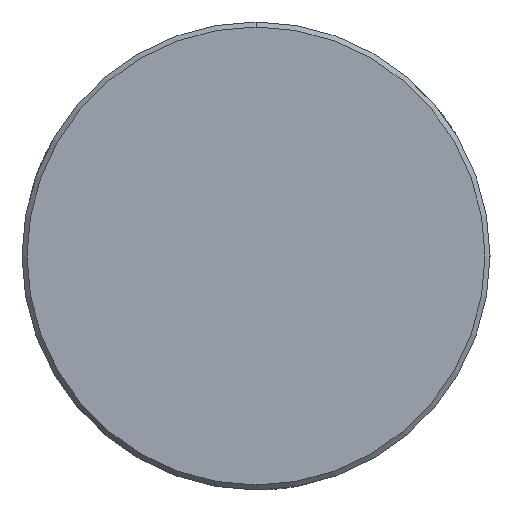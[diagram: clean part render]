
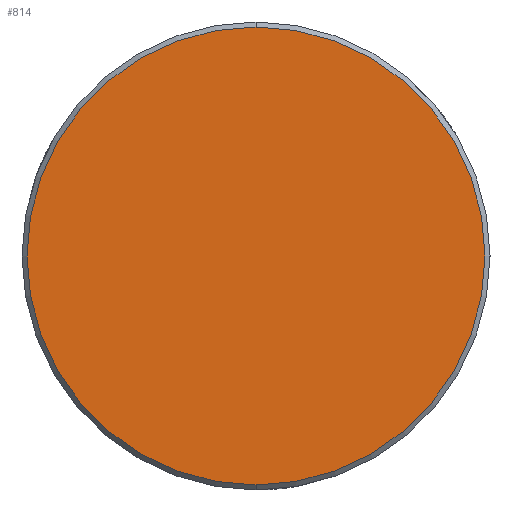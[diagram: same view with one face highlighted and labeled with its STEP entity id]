
A CAD part, left-side view. The second image highlights one B-rep face of the part: STEP entity #814.
In plain terms, the highlighted planar face has unit normal (-1, 0, 0).
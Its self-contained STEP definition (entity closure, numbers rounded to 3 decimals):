
#10 = VERTEX_POINT ( 'NONE', #531 ) ;
#90 = DIRECTION ( 'NONE',  ( -1., 0., 0. ) ) ;
#107 = EDGE_CURVE ( 'NONE', #571, #10, #877, .T. ) ;
#196 = AXIS2_PLACEMENT_3D ( 'NONE', #619, #90, #287 ) ;
#257 = FACE_OUTER_BOUND ( 'NONE', #871, .T. ) ;
#287 = DIRECTION ( 'NONE',  ( 0., 0., -1. ) ) ;
#424 = EDGE_CURVE ( 'NONE', #10, #571, #816, .T. ) ;
#459 = DIRECTION ( 'NONE',  ( 1., 0., 0. ) ) ;
#531 = CARTESIAN_POINT ( 'NONE',  ( -111.4, 0., 13.7 ) ) ;
#536 = AXIS2_PLACEMENT_3D ( 'NONE', #1099, #1025, #659 ) ;
#571 = VERTEX_POINT ( 'NONE', #694 ) ;
#619 = CARTESIAN_POINT ( 'NONE',  ( -111.4, 0., 0. ) ) ;
#625 = ORIENTED_EDGE ( 'NONE', *, *, #424, .T. ) ;
#626 = DIRECTION ( 'NONE',  ( 0., 0., -1. ) ) ;
#659 = DIRECTION ( 'NONE',  ( 0., 0., -1. ) ) ;
#664 = ORIENTED_EDGE ( 'NONE', *, *, #107, .T. ) ;
#694 = CARTESIAN_POINT ( 'NONE',  ( -111.4, 0., -13.7 ) ) ;
#716 = PLANE ( 'NONE',  #1121 ) ;
#814 = ADVANCED_FACE ( 'NONE', ( #257 ), #716, .F. ) ;
#816 = CIRCLE ( 'NONE', #536, 13.7 ) ;
#871 = EDGE_LOOP ( 'NONE', ( #664, #625 ) ) ;
#877 = CIRCLE ( 'NONE', #196, 13.7 ) ;
#1025 = DIRECTION ( 'NONE',  ( -1., 0., 0. ) ) ;
#1075 = CARTESIAN_POINT ( 'NONE',  ( -111.4, -13.864, 13.864 ) ) ;
#1099 = CARTESIAN_POINT ( 'NONE',  ( -111.4, 0., 0. ) ) ;
#1121 = AXIS2_PLACEMENT_3D ( 'NONE', #1075, #459, #626 ) ;
